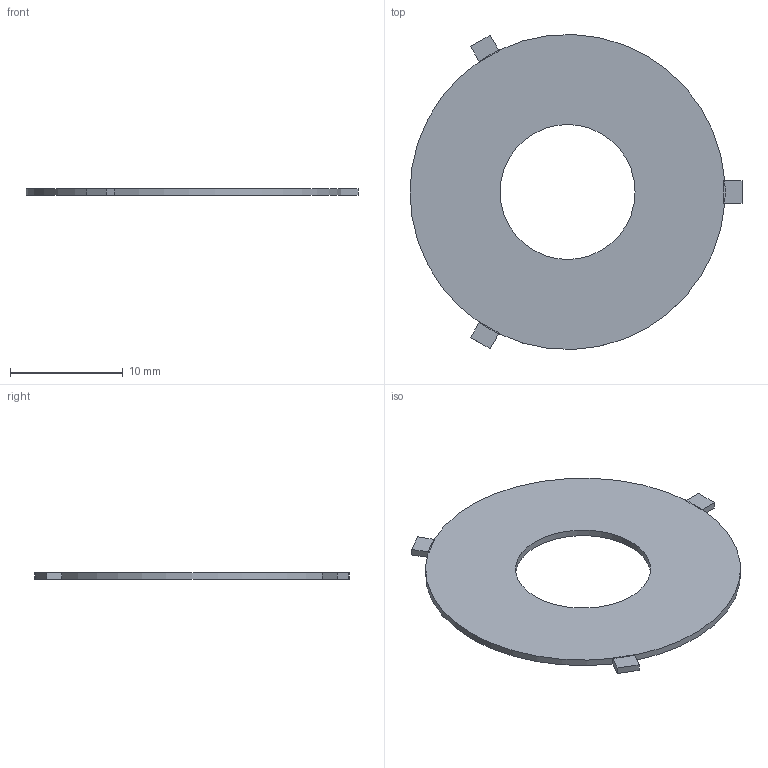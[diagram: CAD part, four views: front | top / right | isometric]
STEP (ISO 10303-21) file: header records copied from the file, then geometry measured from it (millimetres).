
FILE_DESCRIPTION(('Open CASCADE Model'),'2;1');
FILE_NAME('Open CASCADE Shape Model','2026-09-24T19:46:42',('Author'),( 'Open CASCADE'),'Open CASCADE STEP processor 7.8','Open CASCADE 7.8' ,'Unknown');
FILE_SCHEMA(('AUTOMOTIVE_DESIGN { 1 0 10303 214 1 1 1 1 }'));
Length unit declared in the file: millimetre
Products named in the file (1): Open CASCADE STEP translator 7.8 1
Bounding box: 29.5 x 27.98 x 0.6 mm (x, y, z)
Volume: 307 mm3; surface area: 1104.4 mm2
Topology: 1 solids, 1 shells, 27 faces, 65 edges, 40 vertices
Faces by surface type: plane 23, cylinder 4
Full cylindrical faces by diameter (mm): 12 x1
Entity records: 1622 total; most frequent: CARTESIAN_POINT 275, DIRECTION 255, LINE 143, VECTOR 143, ORIENTED_EDGE 130, PCURVE 130, DEFINITIONAL_REPRESENTATION 130, EDGE_CURVE 65
